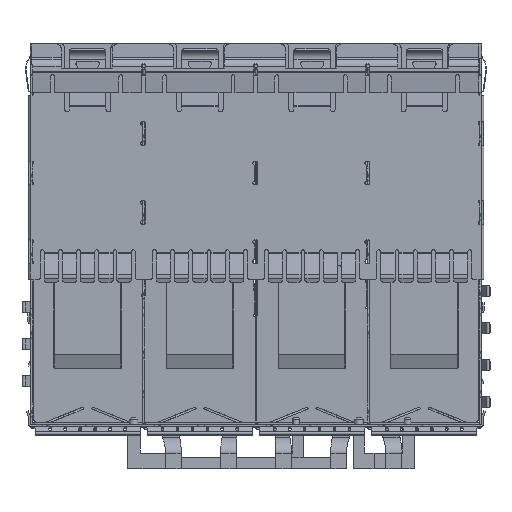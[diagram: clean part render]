
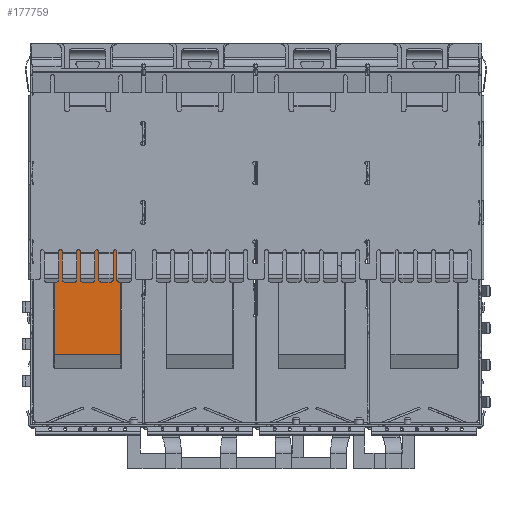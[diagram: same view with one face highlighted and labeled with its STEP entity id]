
A CAD part, front view. The second image highlights one B-rep face of the part: STEP entity #177759.
In plain terms, the highlighted planar face has unit normal (0, -1, 0).
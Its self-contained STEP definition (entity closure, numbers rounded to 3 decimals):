
#4359 = DIRECTION ( 'NONE',  ( 0., -1., 0. ) ) ;
#17334 = CARTESIAN_POINT ( 'NONE',  ( 26.925, 11.158, -19.234 ) ) ;
#19860 = DIRECTION ( 'NONE',  ( 1., 0., 0. ) ) ;
#23616 = CARTESIAN_POINT ( 'NONE',  ( 26.925, 11.158, -19.234 ) ) ;
#23817 = VERTEX_POINT ( 'NONE', #93562 ) ;
#25350 = VECTOR ( 'NONE', #61589, 1000. ) ;
#27215 = VERTEX_POINT ( 'NONE', #23616 ) ;
#31748 = VERTEX_POINT ( 'NONE', #61600 ) ;
#34873 = EDGE_LOOP ( 'NONE', ( #141773, #181585, #82388, #187217 ) ) ;
#37598 = CARTESIAN_POINT ( 'NONE',  ( 18.525, 11.158, -19.234 ) ) ;
#52748 = AXIS2_PLACEMENT_3D ( 'NONE', #111244, #4359, #172768 ) ;
#56185 = LINE ( 'NONE', #17334, #92076 ) ;
#61589 = DIRECTION ( 'NONE',  ( 0., 0., -1. ) ) ;
#61600 = CARTESIAN_POINT ( 'NONE',  ( 18.525, 11.158, -19.234 ) ) ;
#64021 = VERTEX_POINT ( 'NONE', #95555 ) ;
#80693 = CARTESIAN_POINT ( 'NONE',  ( 18.525, 11.158, -42. ) ) ;
#82388 = ORIENTED_EDGE ( 'NONE', *, *, #150915, .T. ) ;
#92076 = VECTOR ( 'NONE', #139608, 1000. ) ;
#93562 = CARTESIAN_POINT ( 'NONE',  ( 18.525, 11.158, -42. ) ) ;
#95555 = CARTESIAN_POINT ( 'NONE',  ( 26.925, 11.158, -42. ) ) ;
#103881 = EDGE_CURVE ( 'NONE', #31748, #23817, #188000, .T. ) ;
#111244 = CARTESIAN_POINT ( 'NONE',  ( 18.525, 11.158, -19.234 ) ) ;
#122634 = EDGE_CURVE ( 'NONE', #27215, #31748, #141892, .T. ) ;
#123048 = CARTESIAN_POINT ( 'NONE',  ( 18.525, 11.158, -19.234 ) ) ;
#137133 = VECTOR ( 'NONE', #175307, 1000. ) ;
#139608 = DIRECTION ( 'NONE',  ( 0., 0., 1. ) ) ;
#141773 = ORIENTED_EDGE ( 'NONE', *, *, #122634, .T. ) ;
#141892 = LINE ( 'NONE', #37598, #137133 ) ;
#142005 = PLANE ( 'NONE',  #52748 ) ;
#142725 = VECTOR ( 'NONE', #19860, 1000. ) ;
#145973 = EDGE_CURVE ( 'NONE', #64021, #27215, #56185, .T. ) ;
#150915 = EDGE_CURVE ( 'NONE', #23817, #64021, #183448, .T. ) ;
#172768 = DIRECTION ( 'NONE',  ( -1., 0., 0. ) ) ;
#175307 = DIRECTION ( 'NONE',  ( -1., 0., 0. ) ) ;
#177759 = ADVANCED_FACE ( 'NONE', ( #186040 ), #142005, .T. ) ;
#181585 = ORIENTED_EDGE ( 'NONE', *, *, #103881, .T. ) ;
#183448 = LINE ( 'NONE', #80693, #142725 ) ;
#186040 = FACE_OUTER_BOUND ( 'NONE', #34873, .T. ) ;
#187217 = ORIENTED_EDGE ( 'NONE', *, *, #145973, .T. ) ;
#188000 = LINE ( 'NONE', #123048, #25350 ) ;
